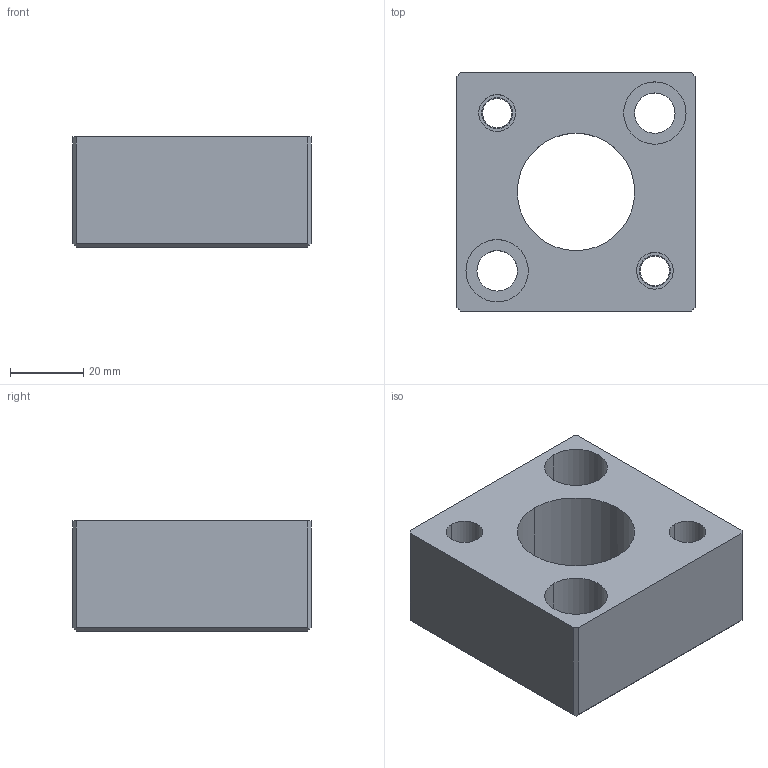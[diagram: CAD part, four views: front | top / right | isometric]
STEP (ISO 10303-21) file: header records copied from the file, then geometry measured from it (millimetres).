
FILE_DESCRIPTION(/* description */ (''),/* implementation_level */ '2;1');
FILE_NAME(/* name */ '3d_sr-an32_05467_r00.stp',/* time_stamp */ '2011-01-10T14:10:00+09:00',/* author */ ('MISUMI'),/* organization */ (''),/* preprocessor_version */ 'ST-DEVELOPER v11',/* originating_system */ 'UGS - NX 5.0',/* authorisation */ '');
FILE_SCHEMA (('CONFIG_CONTROL_DESIGN'));
Length unit declared in the file: millimetre
Products named in the file (1): 3d_sr-an32_05467_r00
Bounding box: 65 x 65 x 30 mm (x, y, z)
Volume: 88697.4 mm3; surface area: 21114.8 mm2
Topology: 1 solids, 1 shells, 47 faces, 112 edges, 74 vertices
Faces by surface type: cylinder 24, plane 21, cone 2
Entity records: 1486 total; most frequent: DIRECTION 258, CARTESIAN_POINT 234, ORIENTED_EDGE 224, EDGE_CURVE 112, AXIS2_PLACEMENT_3D 98, VERTEX_POINT 74, EDGE_LOOP 64, LINE 62
